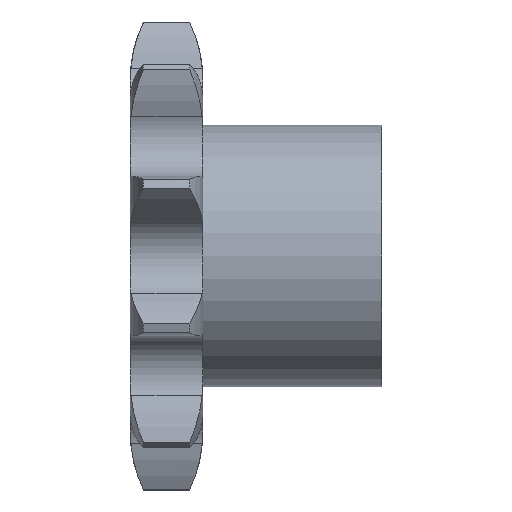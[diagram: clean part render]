
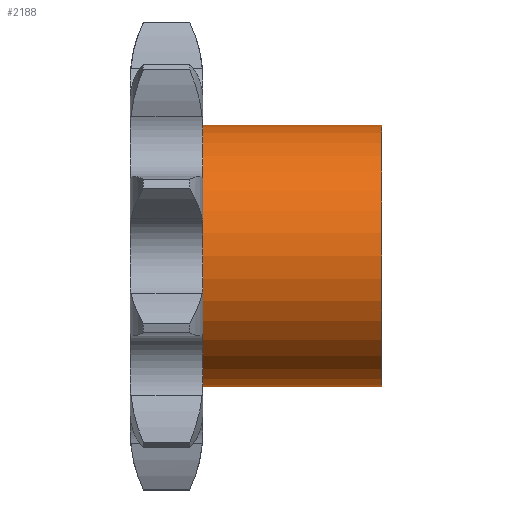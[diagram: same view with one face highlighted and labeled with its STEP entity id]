
A CAD part, front view. The second image highlights one B-rep face of the part: STEP entity #2188.
In plain terms, the highlighted cylindrical face has radius 13 mm (diameter 26 mm), a partial arc.
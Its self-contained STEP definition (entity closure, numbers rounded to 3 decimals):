
#35 = CARTESIAN_POINT ( 'NONE',  ( 7.2, 0., 0. ) ) ;
#39 = EDGE_CURVE ( 'NONE', #1421, #1314, #1721, .T. ) ;
#207 = CARTESIAN_POINT ( 'NONE',  ( 7.2, 0., 13. ) ) ;
#338 = DIRECTION ( 'NONE',  ( 0., 0., 1. ) ) ;
#531 = LINE ( 'NONE', #675, #2616 ) ;
#675 = CARTESIAN_POINT ( 'NONE',  ( 0., 0., 13. ) ) ;
#758 = ORIENTED_EDGE ( 'NONE', *, *, #2423, .F. ) ;
#783 = EDGE_CURVE ( 'NONE', #1314, #1543, #531, .T. ) ;
#833 = AXIS2_PLACEMENT_3D ( 'NONE', #844, #2324, #1260 ) ;
#844 = CARTESIAN_POINT ( 'NONE',  ( 0., 0., 0. ) ) ;
#973 = EDGE_LOOP ( 'NONE', ( #758, #990, #2729, #2122 ) ) ;
#988 = CARTESIAN_POINT ( 'NONE',  ( 25., 0., 0. ) ) ;
#990 = ORIENTED_EDGE ( 'NONE', *, *, #39, .T. ) ;
#1035 = CARTESIAN_POINT ( 'NONE',  ( 25., 0., 13. ) ) ;
#1062 = VECTOR ( 'NONE', #1358, 1000. ) ;
#1147 = AXIS2_PLACEMENT_3D ( 'NONE', #988, #1404, #338 ) ;
#1183 = CIRCLE ( 'NONE', #2250, 13. ) ;
#1260 = DIRECTION ( 'NONE',  ( 0., 0., 1. ) ) ;
#1314 = VERTEX_POINT ( 'NONE', #1035 ) ;
#1358 = DIRECTION ( 'NONE',  ( -1., 0., 0. ) ) ;
#1404 = DIRECTION ( 'NONE',  ( -1., 0., 0. ) ) ;
#1421 = VERTEX_POINT ( 'NONE', #2479 ) ;
#1463 = EDGE_CURVE ( 'NONE', #1543, #2053, #1183, .T. ) ;
#1543 = VERTEX_POINT ( 'NONE', #207 ) ;
#1721 = CIRCLE ( 'NONE', #1147, 13. ) ;
#1956 = LINE ( 'NONE', #2207, #1062 ) ;
#2053 = VERTEX_POINT ( 'NONE', #2445 ) ;
#2122 = ORIENTED_EDGE ( 'NONE', *, *, #1463, .T. ) ;
#2163 = DIRECTION ( 'NONE',  ( 1., 0., 0. ) ) ;
#2188 = ADVANCED_FACE ( 'NONE', ( #2335 ), #2309, .T. ) ;
#2207 = CARTESIAN_POINT ( 'NONE',  ( 0., 0., -13. ) ) ;
#2250 = AXIS2_PLACEMENT_3D ( 'NONE', #35, #2163, #2717 ) ;
#2309 = CYLINDRICAL_SURFACE ( 'NONE', #833, 13. ) ;
#2324 = DIRECTION ( 'NONE',  ( -1., 0., 0. ) ) ;
#2335 = FACE_OUTER_BOUND ( 'NONE', #973, .T. ) ;
#2361 = DIRECTION ( 'NONE',  ( -1., 0., 0. ) ) ;
#2423 = EDGE_CURVE ( 'NONE', #1421, #2053, #1956, .T. ) ;
#2445 = CARTESIAN_POINT ( 'NONE',  ( 7.2, 0., -13. ) ) ;
#2479 = CARTESIAN_POINT ( 'NONE',  ( 25., 0., -13. ) ) ;
#2616 = VECTOR ( 'NONE', #2361, 1000. ) ;
#2717 = DIRECTION ( 'NONE',  ( 0., 0., 1. ) ) ;
#2729 = ORIENTED_EDGE ( 'NONE', *, *, #783, .T. ) ;
